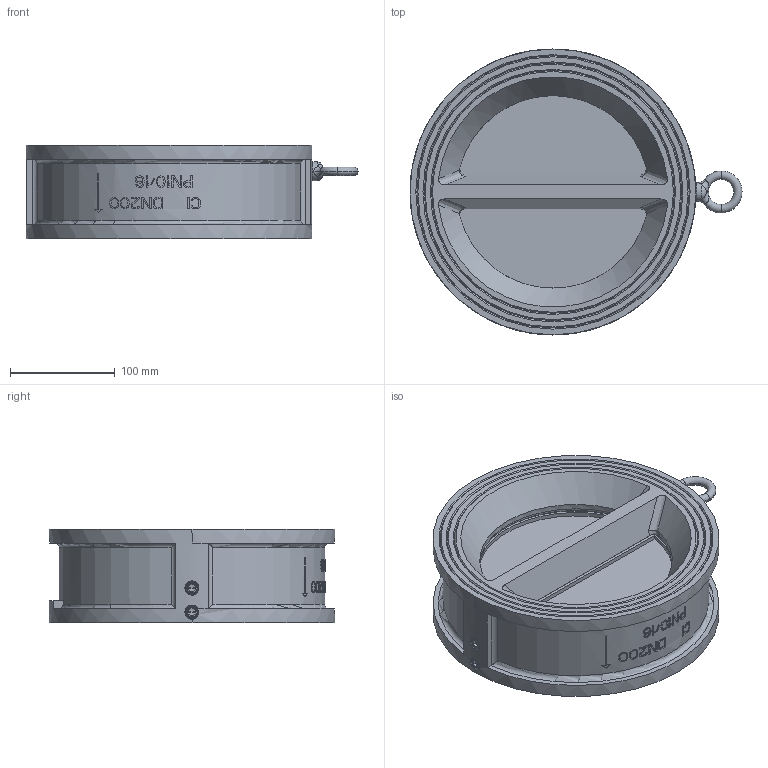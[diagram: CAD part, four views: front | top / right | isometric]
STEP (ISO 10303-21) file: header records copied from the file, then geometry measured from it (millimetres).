
FILE_DESCRIPTION((''),'2;1');
FILE_NAME('00-8-1_ASM','2014-07-23T',('Administrator'),(''),'PRO/ENGINEER BY PARAMETRIC TECHNOLOGY CORPORATION, 2010370','PRO/ENGINEER BY PARAMETRIC TECHNOLOGY CORPORATION, 2010370','');
FILE_SCHEMA(('CONFIG_CONTROL_DESIGN'));
Length unit declared in the file: millimetre
Products named in the file (11): 8-BODY_; 8_; 8-DISC_; 6-8_; M12-1_; HUANG-8_; 16_; F4-8-H_; 8-F4-B_; CP_M12-DIAOHUAN___; 00-8-1_ASM
Assembly tree (23 placements, depth 2):
  00-8-1_ASM
    8-BODY_
    8_  x2
    8-DISC_  x2
    6-8_  x4
    M12-1_  x6
    HUANG-8_  x2
    16_  x2
    F4-8-H_  x2
    8-F4-B_
    CP_M12-DIAOHUAN___
Bounding box: 317 x 273 x 89 mm (x, y, z)
Surface area: 372595 mm2 (no closed solid volume)
Topology: 0 solids, 23 shells, 1267 faces, 3360 edges, 2170 vertices
Faces by surface type: plane 823, cylinder 211, bspline 140, cone 64, torus 29
Entity records: 41851 total; most frequent: CARTESIAN_POINT 22007, ORIENTED_EDGE 4600, DIRECTION 3244, EDGE_CURVE 2300, VERTEX_POINT 1514, AXIS2_PLACEMENT_3D 1089, VECTOR 1066, LINE 1066
